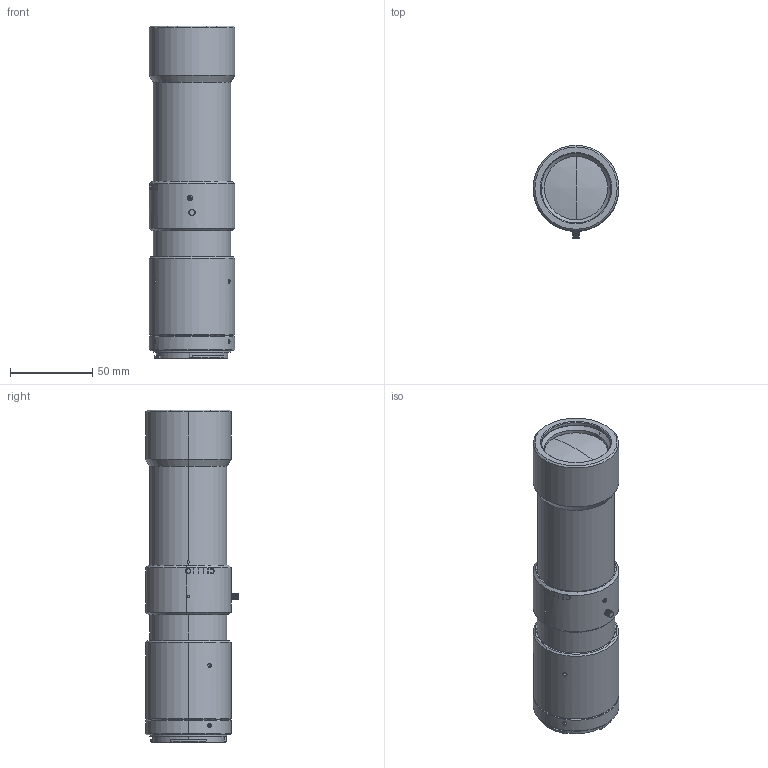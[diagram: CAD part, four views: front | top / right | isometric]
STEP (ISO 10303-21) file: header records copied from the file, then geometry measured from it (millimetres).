
FILE_DESCRIPTION (( 'STEP AP203' ), '1' );
FILE_NAME ('3d_MML2.5-HR110VI-43F-SWIR_a001.STEP', '2023-10-25T05:32:20', ( '' ), ( '' ), 'SwSTEP 2.0', 'SolidWorks 2020', '' );
FILE_SCHEMA (( 'CONFIG_CONTROL_DESIGN' ));
Length unit declared in the file: millimetre
Products named in the file (1): 3d_MML2.5-HR110VI-43F-SWIR_a001
Bounding box: 52 x 56.5 x 201.78 mm (x, y, z)
Volume: 346208.8 mm3; surface area: 51671.3 mm2
Topology: 1 solids, 2 shells, 615 faces, 1613 edges, 1049 vertices
Faces by surface type: cylinder 238, plane 215, cone 102, bspline 56, torus 2, sphere 2
Entity records: 28390 total; most frequent: CARTESIAN_POINT 14050, ORIENTED_EDGE 3222, DIRECTION 2586, EDGE_CURVE 1611, VERTEX_POINT 1049, AXIS2_PLACEMENT_3D 988, EDGE_LOOP 680, ADVANCED_FACE 615
